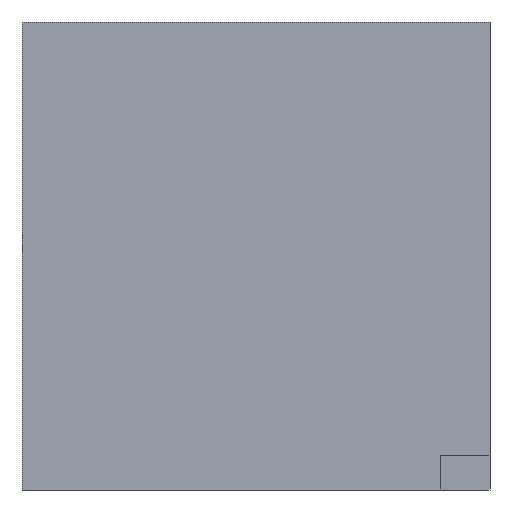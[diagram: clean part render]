
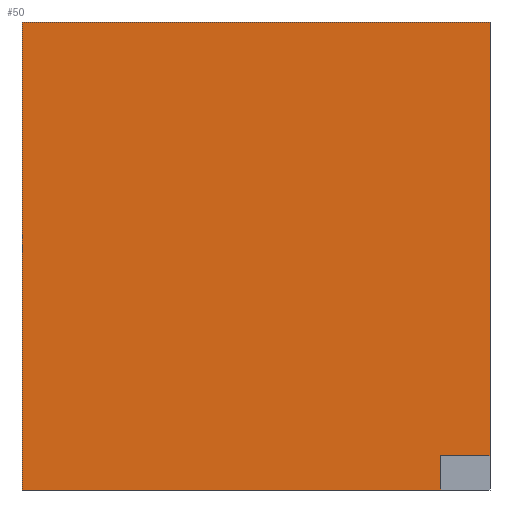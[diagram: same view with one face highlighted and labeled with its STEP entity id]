
A CAD part, front view. The second image highlights one B-rep face of the part: STEP entity #50.
In plain terms, the highlighted planar face has unit normal (0, -1, 0).
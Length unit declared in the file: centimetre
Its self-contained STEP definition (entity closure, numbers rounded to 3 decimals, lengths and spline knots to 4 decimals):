
#9 = CARTESIAN_POINT ( 'NONE',  ( 0., 0., 0. ) ) ;
#33 = CARTESIAN_POINT ( 'NONE',  ( 0., 0., 0. ) ) ;
#37 = EDGE_CURVE ( 'NONE', #154, #283, #239, .T. ) ;
#39 = CARTESIAN_POINT ( 'NONE',  ( 1000., 0., 1000. ) ) ;
#50 = ADVANCED_FACE ( 'NONE', ( #775 ), #579, .F. ) ;
#56 = VERTEX_POINT ( 'NONE', #504 ) ;
#97 = EDGE_CURVE ( 'NONE', #56, #102, #440, .T. ) ;
#102 = VERTEX_POINT ( 'NONE', #39 ) ;
#119 = DIRECTION ( 'NONE',  ( 0., 0., 1. ) ) ;
#142 = EDGE_CURVE ( 'NONE', #56, #670, #642, .T. ) ;
#154 = VERTEX_POINT ( 'NONE', #576 ) ;
#210 = DIRECTION ( 'NONE',  ( 0., 0., -1. ) ) ;
#216 = VECTOR ( 'NONE', #646, 100. ) ;
#218 = EDGE_LOOP ( 'NONE', ( #611, #362, #542, #643, #745, #294 ) ) ;
#239 = LINE ( 'NONE', #511, #767 ) ;
#250 = DIRECTION ( 'NONE',  ( 0., 0., -1. ) ) ;
#253 = DIRECTION ( 'NONE',  ( 1., 0., 0. ) ) ;
#259 = LINE ( 'NONE', #804, #524 ) ;
#283 = VERTEX_POINT ( 'NONE', #749 ) ;
#294 = ORIENTED_EDGE ( 'NONE', *, *, #456, .T. ) ;
#362 = ORIENTED_EDGE ( 'NONE', *, *, #37, .T. ) ;
#371 = VECTOR ( 'NONE', #831, 100. ) ;
#391 = AXIS2_PLACEMENT_3D ( 'NONE', #839, #429, #119 ) ;
#418 = VECTOR ( 'NONE', #253, 100. ) ;
#429 = DIRECTION ( 'NONE',  ( 0., 1., 0. ) ) ;
#431 = CARTESIAN_POINT ( 'NONE',  ( 0., 0., 1000. ) ) ;
#435 = VECTOR ( 'NONE', #250, 100. ) ;
#440 = LINE ( 'NONE', #431, #418 ) ;
#456 = EDGE_CURVE ( 'NONE', #670, #460, #492, .T. ) ;
#460 = VERTEX_POINT ( 'NONE', #756 ) ;
#492 = LINE ( 'NONE', #33, #371 ) ;
#504 = CARTESIAN_POINT ( 'NONE',  ( 0., 0., 1000. ) ) ;
#511 = CARTESIAN_POINT ( 'NONE',  ( 894.7528, 0., 72.7664 ) ) ;
#524 = VECTOR ( 'NONE', #210, 100. ) ;
#542 = ORIENTED_EDGE ( 'NONE', *, *, #602, .F. ) ;
#552 = EDGE_CURVE ( 'NONE', #154, #460, #714, .T. ) ;
#576 = CARTESIAN_POINT ( 'NONE',  ( 894.7528, 0., 72.7664 ) ) ;
#579 = PLANE ( 'NONE',  #391 ) ;
#602 = EDGE_CURVE ( 'NONE', #102, #283, #259, .T. ) ;
#611 = ORIENTED_EDGE ( 'NONE', *, *, #552, .F. ) ;
#630 = DIRECTION ( 'NONE',  ( 1., 0., 0. ) ) ;
#642 = LINE ( 'NONE', #763, #216 ) ;
#643 = ORIENTED_EDGE ( 'NONE', *, *, #97, .F. ) ;
#646 = DIRECTION ( 'NONE',  ( 0., 0., -1. ) ) ;
#670 = VERTEX_POINT ( 'NONE', #9 ) ;
#714 = LINE ( 'NONE', #835, #435 ) ;
#745 = ORIENTED_EDGE ( 'NONE', *, *, #142, .T. ) ;
#749 = CARTESIAN_POINT ( 'NONE',  ( 1000., 0., 72.7664 ) ) ;
#756 = CARTESIAN_POINT ( 'NONE',  ( 894.7528, 0., 0. ) ) ;
#763 = CARTESIAN_POINT ( 'NONE',  ( 0., 0., 1000. ) ) ;
#767 = VECTOR ( 'NONE', #630, 100. ) ;
#775 = FACE_OUTER_BOUND ( 'NONE', #218, .T. ) ;
#804 = CARTESIAN_POINT ( 'NONE',  ( 1000., 0., 1000. ) ) ;
#831 = DIRECTION ( 'NONE',  ( 1., 0., 0. ) ) ;
#835 = CARTESIAN_POINT ( 'NONE',  ( 894.7528, 0., 0. ) ) ;
#839 = CARTESIAN_POINT ( 'NONE',  ( 0., 0., 1000. ) ) ;
